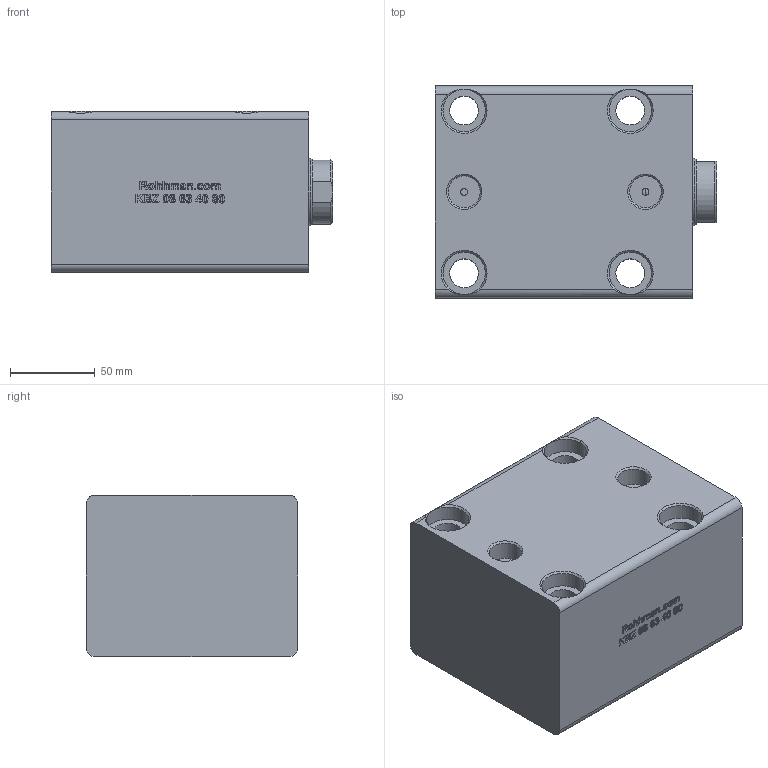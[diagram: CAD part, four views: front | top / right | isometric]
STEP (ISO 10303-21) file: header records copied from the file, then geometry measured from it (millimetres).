
FILE_DESCRIPTION(/* description */ (''),/* implementation_level */ '2;1');
FILE_NAME(/* name */ 'KBZ_08_63_40_80_WEB.step',/* time_stamp */ '2023-09-05T16:09:41+03:00',/* author */ (''),/* organization */ (''),/* preprocessor_version */ 'ST-DEVELOPER v20',/* originating_system */ 'Autodesk Translation Framework v12.9.0.99',/* authorisation */ '');
FILE_SCHEMA (('AUTOMOTIVE_DESIGN { 1 0 10303 214 3 1 1 }'));
Length unit declared in the file: millimetre
Products named in the file (7): KBZ_08_63_40_100_MONTAJ; KAPAK; KAPAK_1; GÖVDE; GÖVDE_1; Ø40_MİL; Bileşen1
Assembly tree (6 placements, depth 3):
  KBZ_08_63_40_100_MONTAJ
    KAPAK
      KAPAK_1
    GÖVDE
      GÖVDE_1
    Ø40_MİL
      Bileşen1
Bounding box: 166 x 125 x 95 mm (x, y, z)
Volume: 1554046.6 mm3; surface area: 155730.9 mm2
Topology: 3 solids, 3 shells, 596 faces, 1617 edges, 1068 vertices
Faces by surface type: bspline 364, plane 182, cylinder 28, cone 22
Full cylindrical faces by diameter (mm): 3 x2, 4 x2, 17 x4, 18.901 x2, 24.002 x1, 25 x4, 40 x1, 40.5 x1, 63 x2, 66 x1, 80 x2
Entity records: 22356 total; most frequent: CARTESIAN_POINT 9598, ORIENTED_EDGE 3234, EDGE_CURVE 1617, DIRECTION 1455, VERTEX_POINT 1068, LINE 785, VECTOR 785, B_SPLINE_CURVE_WITH_KNOTS 739
